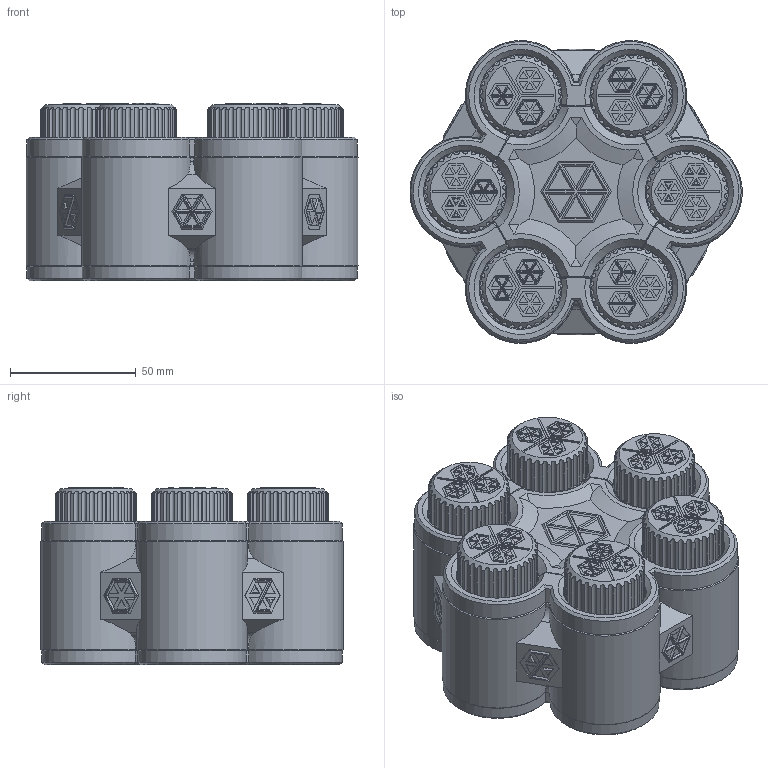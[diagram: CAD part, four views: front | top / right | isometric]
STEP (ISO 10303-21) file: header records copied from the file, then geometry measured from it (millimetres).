
FILE_DESCRIPTION(/* description */ (''),/* implementation_level */ '2;1');
FILE_NAME(/* name */ '',/* time_stamp */ '',/* author */ (''),/* organization */ (''),/* preprocessor_version */ 'ST-DEVELOPER v20',/* originating_system */ 'Autodesk Translation Framework v12.20.1.177',/* authorisation */ '');
FILE_SCHEMA (('AUTOMOTIVE_DESIGN { 1 0 10303 214 3 1 1 }'));
Length unit declared in the file: millimetre
Products named in the file (1): Print in Place Hex Puzzle 4
Bounding box: 131.83 x 120.05 x 70.6 mm (x, y, z)
Volume: 589734.1 mm3; surface area: 189847.4 mm2
Topology: 70 solids, 70 shells, 3839 faces, 9990 edges, 6393 vertices
Faces by surface type: plane 2543, cone 626, cylinder 574, bspline 96
Full cylindrical faces by diameter (mm): 32 x6
Entity records: 123322 total; most frequent: CARTESIAN_POINT 30947, ORIENTED_EDGE 19812, DIRECTION 18058, EDGE_CURVE 9906, LINE 6506, VECTOR 6506, VERTEX_POINT 6393, AXIS2_PLACEMENT_3D 5776
